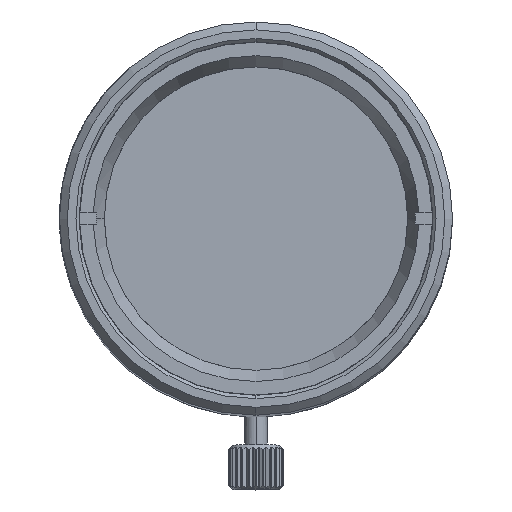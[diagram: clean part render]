
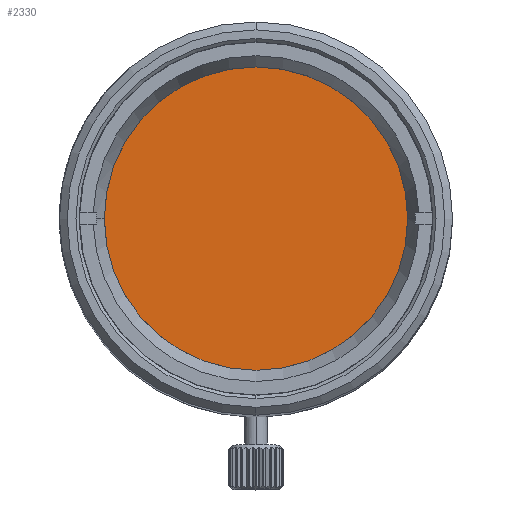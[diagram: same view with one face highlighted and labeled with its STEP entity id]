
A CAD part, top view. The second image highlights one B-rep face of the part: STEP entity #2330.
In plain terms, the highlighted planar face has unit normal (0, 0, 1).
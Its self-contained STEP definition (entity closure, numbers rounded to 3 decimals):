
#2330 = ADVANCED_FACE ( 'NONE', ( #13609 ), #13608, .F. ) ;
#2332 = ORIENTED_EDGE ( 'NONE', *, *, #22932, .T. ) ;
#2338 = ORIENTED_EDGE ( 'NONE', *, *, #9529, .T. ) ;
#2344 = EDGE_LOOP ( 'NONE', ( #2338, #2332 ) ) ;
#9484 = VERTEX_POINT ( 'NONE', #22351 ) ;
#9529 = EDGE_CURVE ( 'NONE', #9484, #9534, #22496, .T. ) ;
#9534 = VERTEX_POINT ( 'NONE', #22568 ) ;
#13599 = AXIS2_PLACEMENT_3D ( 'NONE', #13650, #13649, #13648 ) ;
#13608 = PLANE ( 'NONE',  #13599 ) ;
#13609 = FACE_OUTER_BOUND ( 'NONE', #2344, .T. ) ;
#13648 = DIRECTION ( 'NONE',  ( -1., 0., 0. ) ) ;
#13649 = DIRECTION ( 'NONE',  ( 0., 0., -1. ) ) ;
#13650 = CARTESIAN_POINT ( 'NONE',  ( 0., 0., 77.624 ) ) ;
#22351 = CARTESIAN_POINT ( 'NONE',  ( -13.571, 0., 77.624 ) ) ;
#22464 = AXIS2_PLACEMENT_3D ( 'NONE', #22511, #22510, #22509 ) ;
#22496 = CIRCLE ( 'NONE', #22464, 13.571 ) ;
#22509 = DIRECTION ( 'NONE',  ( -1., 0., 0. ) ) ;
#22510 = DIRECTION ( 'NONE',  ( 0., 0., 1. ) ) ;
#22511 = CARTESIAN_POINT ( 'NONE',  ( 0., 0., 77.624 ) ) ;
#22568 = CARTESIAN_POINT ( 'NONE',  ( 13.571, 0., 77.624 ) ) ;
#22932 = EDGE_CURVE ( 'NONE', #9534, #9484, #25865, .T. ) ;
#25854 = DIRECTION ( 'NONE',  ( 0., 0., 1. ) ) ;
#25855 = CARTESIAN_POINT ( 'NONE',  ( 0., 0., 77.624 ) ) ;
#25856 = AXIS2_PLACEMENT_3D ( 'NONE', #25855, #25854, #25919 ) ;
#25865 = CIRCLE ( 'NONE', #25856, 13.571 ) ;
#25919 = DIRECTION ( 'NONE',  ( -1., 0., 0. ) ) ;
